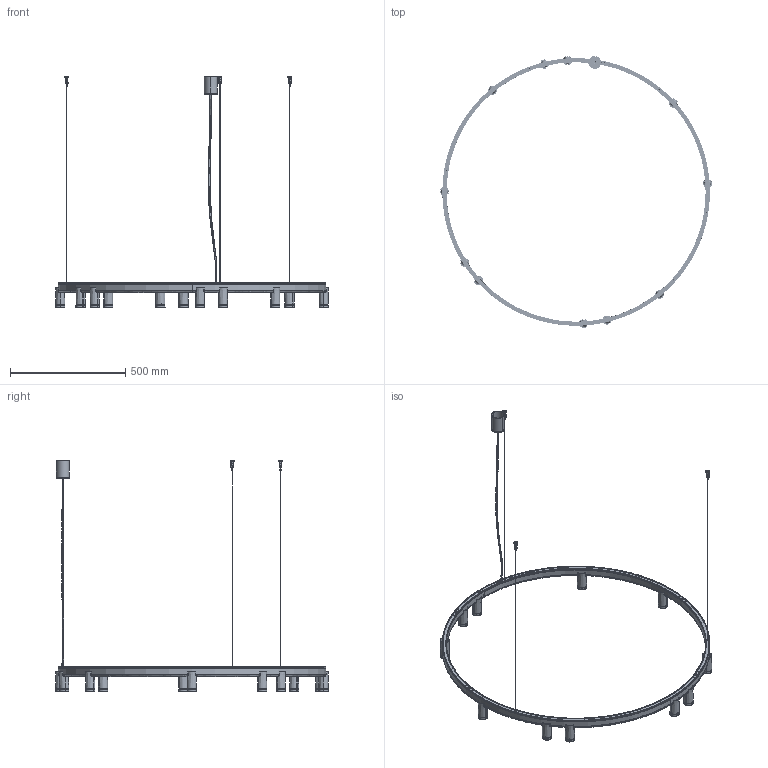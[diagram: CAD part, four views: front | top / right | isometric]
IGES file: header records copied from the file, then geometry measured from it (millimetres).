
Start section: SolidWorks IGES file using analytic representation for surfaces
Global section: file name: C:\Users\anna.bielnik\Desktop\FOURTY-ROUND-XI-12288-12420-12286-12287\fourty round zwis 1160 xi PM.IGS; native system: SolidWorks 2025; preprocessor: SolidWorks 2025; author: anna.bielnik; date: 260415.084253; units: millimetre
Bounding box: 1181.88 x 1180.73 x 1000 mm (x, y, z)
Surface area: 1310295.4 mm2 (no closed solid volume)
Topology: 0 solids, 0 shells, 1904 faces, 36691 edges, 36671 vertices
Faces by surface type: revolution 1043, bspline 861
